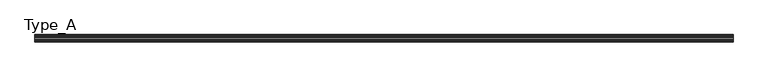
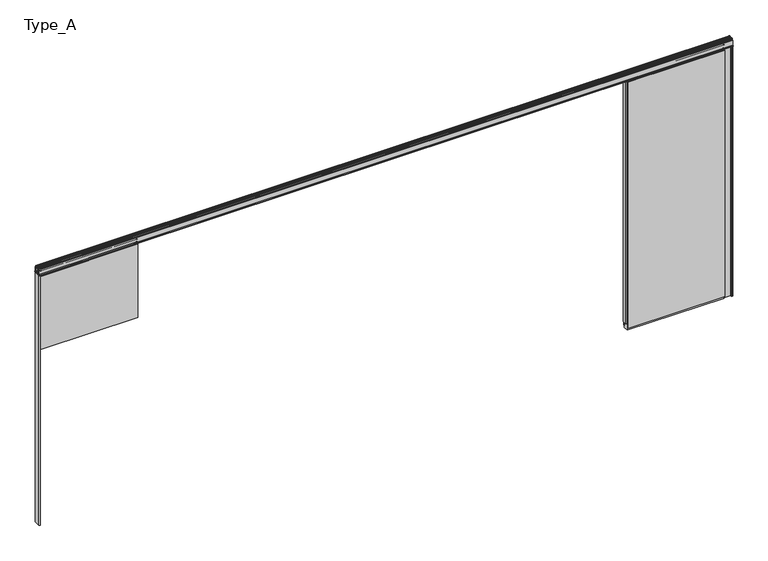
"""IFC4 building model written with IfcOpenShell, lengths in millimetres: proxy geometry, Planner Wall フラッシュパネル(Door) : Type_A."""

import ifcopenshell
import ifcopenshell.guid

model = None  # the IFC model being written
_history = None  # IfcOwnerHistory: only IFC2X3 demands one
_inside = {}  # id of a spatial element -> (the spatial element, [elements in it])
_under = {}  # id of a project, library or spatial element -> (it, [spatial elements below it])
_declared = {}  # id of a project -> (the project, [libraries it declares])
_typed = {}  # id of a type object -> (the type object, [elements of that type])
_made_of = {}  # id of a material, layer set ... -> (it, [elements and type objects made of it])


def new_model(schema):
    """Start an empty IFC model of exactly this schema.

    Asked for "IFC4X3", IfcOpenShell would pick the latest addendum, in which some entities
    have other attributes; the version numbers below select the first issue.
    IFC2X3 requires an IfcOwnerHistory on every rooted entity: one is made here for all.
    """
    global model, _history
    if schema == "IFC4X3":
        model = ifcopenshell.file(schema_version=(4, 3, 0, 0))
    else:
        model = ifcopenshell.file(schema=schema)
    _inside.clear()
    _under.clear()
    _declared.clear()
    _typed.clear()
    _made_of.clear()
    _history = None
    if model.schema == "IFC2X3":
        org = make("IfcOrganization", Name="unknown")
        user = make(
            "IfcPersonAndOrganization",
            ThePerson=make("IfcPerson", FamilyName="unknown"),
            TheOrganization=org,
        )
        app = make(
            "IfcApplication",
            ApplicationDeveloper=org,
            Version="unknown",
            ApplicationFullName="unknown",
            ApplicationIdentifier="unknown",
        )
        _history = make(
            "IfcOwnerHistory",
            OwningUser=user,
            OwningApplication=app,
            ChangeAction="ADDED",
            CreationDate=0,
        )
    return model


def make(cls, **values):
    """One entity of the class cls with the attributes given. An attribute that is None is left unset."""
    return model.create_entity(
        cls, **{name: value for name, value in values.items() if value is not None}
    )


def rooted(cls, **values):
    """An entity with a GlobalId (a new one), such as an element, a storey or a relation."""
    return make(cls, GlobalId=ifcopenshell.guid.new(), OwnerHistory=_history, **values)


def si_unit(unit_type, name, prefix=None):
    """IfcSIUnit, for example si_unit("LENGTHUNIT", "METRE", prefix="MILLI")."""
    return make("IfcSIUnit", UnitType=unit_type, Prefix=prefix, Name=name)


def assignment(units):
    """IfcUnitAssignment: the units of a project."""
    return None if units is None else make("IfcUnitAssignment", Units=units)


def point(xyz):
    """IfcCartesianPoint."""
    return None if xyz is None else make("IfcCartesianPoint", Coordinates=xyz)


def direction(xyz):
    """IfcDirection."""
    return None if xyz is None else make("IfcDirection", DirectionRatios=xyz)


def frame(location, z_axis=None, x_axis=None):
    """IfcAxis2Placement3D, a coordinate frame: its origin and axes. An axis left out is left unset."""
    return make(
        "IfcAxis2Placement3D",
        Location=point(location),
        Axis=direction(z_axis),
        RefDirection=direction(x_axis),
    )


def frame_2d(location, x_axis=None):
    """IfcAxis2Placement2D, a coordinate frame in the plane: its origin and x axis."""
    return make(
        "IfcAxis2Placement2D", Location=point(location), RefDirection=direction(x_axis)
    )


def origin():
    """The frame at (0, 0, 0) with its axes left unset."""
    return frame((0.0, 0.0, 0.0))


def origin_with_axes():
    """The frame at (0, 0, 0) with the z axis (0, 0, 1) and the x axis (1, 0, 0) written out."""
    return frame((0.0, 0.0, 0.0), z_axis=(0.0, 0.0, 1.0), x_axis=(1.0, 0.0, 0.0))


def place(relative_to, where):
    """IfcLocalPlacement: puts the frame where relative to a parent placement (None: the world)."""
    return make(
        "IfcLocalPlacement", PlacementRelTo=relative_to, RelativePlacement=where
    )


def context(
    kind, dimensions, precision=None, world=None, true_north=None, identifier=None
):
    """IfcGeometricRepresentationContext, for example the 3D "Model" context."""
    return make(
        "IfcGeometricRepresentationContext",
        ContextIdentifier=identifier,
        ContextType=kind,
        CoordinateSpaceDimension=dimensions,
        Precision=precision,
        WorldCoordinateSystem=world,
        TrueNorth=true_north,
    )


def project(units=None, contexts=None):
    """IfcProject with its units and contexts."""
    return rooted(
        "IfcProject",
        Name="project",
        RepresentationContexts=contexts,
        UnitsInContext=assignment(units),
    )


def spatial(cls, under=None, at=None, **own):
    """A site, building, storey or space (cls), placed at a placement, below another one or the project."""
    s = rooted(cls, ObjectPlacement=at, **own)
    if under is not None:
        _under.setdefault(under.id(), (under, []))[1].append(s)
    return s


def polyline(points):
    """IfcPolyline through the points."""
    return make("IfcPolyline", Points=[point(p) for p in points])


def circle_curve(where, radius):
    """IfcCircle in the frame where."""
    return make("IfcCircle", Position=where, Radius=radius)


def trimmed(basis, trim1, trim2, sense, master):
    """IfcTrimmedCurve: the piece of a basis curve between two trims."""
    return make(
        "IfcTrimmedCurve",
        BasisCurve=basis,
        Trim1=trim1,
        Trim2=trim2,
        SenseAgreement=sense,
        MasterRepresentation=master,
    )


def segment(curve, same_sense, transition):
    """IfcCompositeCurveSegment."""
    return make(
        "IfcCompositeCurveSegment",
        Transition=transition,
        SameSense=same_sense,
        ParentCurve=curve,
    )


def composite_curve(segments, self_intersect=None):
    """IfcCompositeCurve: segments joined end to end."""
    return make("IfcCompositeCurve", Segments=segments, SelfIntersect=self_intersect)


def outline(outer, holes=None, kind="AREA"):
    """IfcArbitraryClosedProfileDef: a profile drawn as a closed curve; with holes, ...WithVoids."""
    if holes is None:
        return make("IfcArbitraryClosedProfileDef", ProfileType=kind, OuterCurve=outer)
    return make(
        "IfcArbitraryProfileDefWithVoids",
        ProfileType=kind,
        OuterCurve=outer,
        InnerCurves=holes,
    )


def extrude(swept, where, along, depth):
    """IfcExtrudedAreaSolid: the profile swept, set in the frame where, extruded along a direction by depth."""
    return make(
        "IfcExtrudedAreaSolid",
        SweptArea=swept,
        Position=where,
        ExtrudedDirection=direction(along),
        Depth=depth,
    )


def shape(context_of_items, identifier, shape_type, items):
    """IfcShapeRepresentation: the items that make up one representation, for example the "Body"."""
    return make(
        "IfcShapeRepresentation",
        ContextOfItems=context_of_items,
        RepresentationIdentifier=identifier,
        RepresentationType=shape_type,
        Items=items,
    )


def source(mapping_origin, context_of_items, identifier, shape_type, items):
    """IfcRepresentationMap: a shape defined once, which mapped items show again and again."""
    return make(
        "IfcRepresentationMap",
        MappingOrigin=mapping_origin,
        MappedRepresentation=shape(context_of_items, identifier, shape_type, items),
    )


def transform(
    local_origin,
    x_axis=None,
    y_axis=None,
    z_axis=None,
    scale=None,
    scale2=None,
    scale3=None,
    uniform=True,
):
    """IfcCartesianTransformationOperator3D, or its non-uniform kind. x_axis, y_axis, z_axis: its Axis1, 2, 3."""
    if uniform:
        return make(
            "IfcCartesianTransformationOperator3D",
            Axis1=direction(x_axis),
            Axis2=direction(y_axis),
            LocalOrigin=point(local_origin),
            Scale=scale,
            Axis3=direction(z_axis),
        )
    return make(
        "IfcCartesianTransformationOperator3DnonUniform",
        Axis1=direction(x_axis),
        Axis2=direction(y_axis),
        LocalOrigin=point(local_origin),
        Scale=scale,
        Axis3=direction(z_axis),
        Scale2=scale2,
        Scale3=scale3,
    )


def mapped(mapping_source, mapping_target):
    """IfcMappedItem: shows the shape of a source again, moved by a transform."""
    return make(
        "IfcMappedItem", MappingSource=mapping_source, MappingTarget=mapping_target
    )


def made_of(thing, what):
    """Note that an element or type object is made of a material, layer set ...; save() writes the relation."""
    if what is not None:
        _made_of.setdefault(what.id(), (what, []))[1].append(thing)
    return thing


def element(
    cls,
    number,
    at=None,
    inside=None,
    cuts=None,
    type_object=None,
    material=None,
    context=None,
    identifier="Body",
    shape_type=None,
    held_by="IfcProductDefinitionShape",
    body=None,
    shapes=None,
    **own,
):
    """One element of the class cls, such as IfcWall. Its Tag is "e" and its number.

    at: its placement. inside: the storey or other place that contains it. cuts: it is an
    opening in that element (IfcRelVoidsElement). A single representation is given by context,
    identifier, shape_type and body (its items); several are given by shapes. held_by: the class
    of the entity that holds the representations. save() writes the other relations.
    """
    e = rooted(cls, Tag="e%d" % number, ObjectPlacement=at, **own)
    if body is not None:
        shapes = [shape(context, identifier, shape_type, body)]
    if shapes is not None:
        e.Representation = make(held_by, Representations=shapes)
    if inside is not None:
        _inside.setdefault(inside.id(), (inside, []))[1].append(e)
    if cuts is not None:
        rooted(
            "IfcRelVoidsElement", RelatingBuildingElement=cuts, RelatedOpeningElement=e
        )
    if type_object is not None:
        _typed.setdefault(type_object.id(), (type_object, []))[1].append(e)
    return made_of(e, material)


def aggregate(whole, parts):
    """IfcRelAggregates: a whole, such as a stair, and the parts it consists of."""
    return rooted("IfcRelAggregates", RelatingObject=whole, RelatedObjects=parts)


def save(model, path):
    """Write the relations noted so far, then the file.

    IfcRelAggregates (storeys below a building ...), IfcRelContainedInSpatialStructure (elements
    in a storey), IfcRelDefinesByType, IfcRelAssociatesMaterial and IfcRelDeclares: one each for
    every whole, place, type object, material and project.
    """
    for whole, parts in _under.values():
        aggregate(whole, parts)
    for where, things in _inside.values():
        rooted(
            "IfcRelContainedInSpatialStructure",
            RelatedElements=things,
            RelatingStructure=where,
        )
    for kind, things in _typed.values():
        rooted("IfcRelDefinesByType", RelatedObjects=things, RelatingType=kind)
    for what, things in _made_of.values():
        rooted("IfcRelAssociatesMaterial", RelatedObjects=things, RelatingMaterial=what)
    for by, libraries in _declared.values():
        rooted("IfcRelDeclares", RelatingContext=by, RelatedDefinitions=libraries)
    model.write(path)


def type_a_b381bf6a(model_context):
    return source(origin(), model_context, "Body", "SweptSolid", [
        extrude(outline(composite_curve([segment(polyline([(23.5, 3050.1000003), (26.5, 3047.1000003), (26.5, 3032.6)]), True, "CONTINUOUS"), segment(trimmed(circle_curve(frame_2d((25.0, 3032.6)), 1.5), [point((26.5, 3032.6))], [point((25.0, 3031.1))], False, "CARTESIAN"), True, "CONTINUOUS"), segment(polyline([(25.0, 3031.1), (9.0, 3031.1), (9.0, 3019.1000003), (23.5, 3019.1000003), (26.5, 3016.1000003), (26.5, 3001.5)]), True, "CONTINUOUS"), segment(trimmed(circle_curve(frame_2d((25.0, 3001.5)), 1.5), [point((26.5, 3001.5))], [point((25.0, 3000.0))], False, "CARTESIAN"), True, "CONTINUOUS"), segment(polyline([(25.0, 3000.0), (7.5, 3000.0), (7.5, 2994.5), (25.0, 2994.5), (25.0, 2935.0), (-25.0, 2935.0), (-25.0, 2994.5), (-7.5, 2994.5), (-7.5, 3000.0), (-25.0, 3000.0)]), True, "CONTINUOUS"), segment(trimmed(circle_curve(frame_2d((-25.0, 3001.5)), 1.5), [point((-25.0, 3000.0))], [point((-26.5, 3001.5))], False, "CARTESIAN"), True, "CONTINUOUS"), segment(polyline([(-26.5, 3001.5), (-26.5, 3016.1000003), (-23.5, 3019.1000003), (-9.0, 3019.1000003), (-9.0, 3031.1), (-25.0, 3031.1)]), True, "CONTINUOUS"), segment(trimmed(circle_curve(frame_2d((-25.0, 3032.6)), 1.5), [point((-25.0, 3031.1))], [point((-26.5, 3032.6))], False, "CARTESIAN"), True, "CONTINUOUS"), segment(polyline([(-26.5, 3032.6), (-26.5, 3047.1000003), (-23.5, 3050.1000003), (23.5, 3050.1000003)]), True, "CONTINUOUS")], self_intersect=False)), frame((21.5, 0.0, 0.0), z_axis=(1.0, 0.0, 0.0), x_axis=(0.0, 1.0, 0.0)), (0.0, 0.0, 1.0), 1098.4285714),
        extrude(outline(polyline([(1119.9285714, 24.9), (21.5, 24.9), (21.5, 35.0), (1119.9285714, 35.0), (1119.9285714, 24.9)])), frame((0.0, 0.0, 2100.0), z_axis=(0.0, 0.0, 1.0), x_axis=(1.0, 0.0, 0.0)), (0.0, 0.0, 1.0), 875.0),
        extrude(outline(polyline([(1119.9285714, -35.0), (21.5, -35.0), (21.5, -24.9), (1119.9285714, -24.9), (1119.9285714, -35.0)])), frame((0.0, 0.0, 2100.0), z_axis=(0.0, 0.0, 1.0), x_axis=(1.0, 0.0, 0.0)), (0.0, 0.0, 1.0), 875.0),
        extrude(outline(polyline([(8.0, -25.0), (8.0, 25.0), (21.5, 25.0), (21.5, -25.0), (8.0, -25.0)])), frame((0.0, 0.0, 53.0), z_axis=(0.0, 0.0, 1.0), x_axis=(1.0, 0.0, 0.0)), (0.0, 0.0, 1.0), 2869.0),
        extrude(outline(polyline([(6660.0714286, -25.0), (6660.0714286, 25.0), (7753.0, 25.0), (7753.0, -25.0), (6660.0714286, -25.0)])), origin_with_axes(), (0.0, 0.0, 1.0), 65.0),
        extrude(outline(polyline([(7753.0, -19.5), (7753.0, 19.5), (7835.5, 19.5), (7835.5, 25.0), (7842.0, 25.0), (7842.0, -25.0), (7835.5, -25.0), (7835.5, -19.5), (7753.0, -19.5)])), origin_with_axes(), (0.0, 0.0, 1.0), 2994.0),
        extrude(outline(composite_curve([segment(polyline([(23.5, 3050.1000003), (26.5, 3047.1000003), (26.5, 3032.6)]), True, "CONTINUOUS"), segment(trimmed(circle_curve(frame_2d((25.0, 3032.6)), 1.5), [point((26.5, 3032.6))], [point((25.0, 3031.1))], False, "CARTESIAN"), True, "CONTINUOUS"), segment(polyline([(25.0, 3031.1), (9.0, 3031.1), (9.0, 3019.1000003), (23.5, 3019.1000003), (26.5, 3016.1000003), (26.5, 3001.5)]), True, "CONTINUOUS"), segment(trimmed(circle_curve(frame_2d((25.0, 3001.5)), 1.5), [point((26.5, 3001.5))], [point((25.0, 3000.0))], False, "CARTESIAN"), True, "CONTINUOUS"), segment(polyline([(25.0, 3000.0), (7.5, 3000.0), (7.5, 2994.5), (25.0, 2994.5), (25.0, 2935.0), (-25.0, 2935.0), (-25.0, 2994.5), (-7.5, 2994.5), (-7.5, 3000.0), (-25.0, 3000.0)]), True, "CONTINUOUS"), segment(trimmed(circle_curve(frame_2d((-25.0, 3001.5)), 1.5), [point((-25.0, 3000.0))], [point((-26.5, 3001.5))], False, "CARTESIAN"), True, "CONTINUOUS"), segment(polyline([(-26.5, 3001.5), (-26.5, 3016.1000003), (-23.5, 3019.1000003), (-9.0, 3019.1000003), (-9.0, 3031.1), (-25.0, 3031.1)]), True, "CONTINUOUS"), segment(trimmed(circle_curve(frame_2d((-25.0, 3032.6)), 1.5), [point((-25.0, 3031.1))], [point((-26.5, 3032.6))], False, "CARTESIAN"), True, "CONTINUOUS"), segment(polyline([(-26.5, 3032.6), (-26.5, 3047.1000003), (-23.5, 3050.1000003), (23.5, 3050.1000003)]), True, "CONTINUOUS")], self_intersect=False)), frame((6660.0714286, 0.0, 0.0), z_axis=(1.0, 0.0, 0.0), x_axis=(0.0, 1.0, 0.0)), (0.0, 0.0, 1.0), 1098.4285714),
        extrude(outline(polyline([(7758.5, 24.9), (6660.0714286, 24.9), (6660.0714286, 35.0), (7758.5, 35.0), (7758.5, 24.9)])), frame((0.0, 0.0, 25.0), z_axis=(0.0, 0.0, 1.0), x_axis=(1.0, 0.0, 0.0)), (0.0, 0.0, 1.0), 2950.0),
        extrude(outline(polyline([(7758.5, -35.0), (6660.0714286, -35.0), (6660.0714286, -24.9), (7758.5, -24.9), (7758.5, -35.0)])), frame((0.0, 0.0, 25.0), z_axis=(0.0, 0.0, 1.0), x_axis=(1.0, 0.0, 0.0)), (0.0, 0.0, 1.0), 2950.0),
        extrude(outline(polyline([(6646.5714286, -25.0), (6646.5714286, 25.0), (6660.0714286, 25.0), (6660.0714286, -25.0), (6646.5714286, -25.0)])), frame((0.0, 0.0, 78.0), z_axis=(0.0, 0.0, 1.0), x_axis=(1.0, 0.0, 0.0)), (0.0, 0.0, 1.0), 2897.0),
        extrude(outline(polyline([(0.0, -35.0), (0.0, 35.0), (13.5, 35.0), (13.5, 25.0), (8.0, 25.0), (8.0, -25.0), (13.5, -25.0), (13.5, -35.0), (0.0, -35.0)])), origin_with_axes(), (0.0, 0.0, 1.0), 2994.0),
        extrude(outline(composite_curve([segment(trimmed(circle_curve(frame_2d((-26.5, 3056.0)), 5.0), [point((-31.5, 3056.0))], [point((-26.1165175, 3060.9852724))], False, "CARTESIAN"), True, "CONTINUOUS"), segment(polyline([(-26.1165175, 3060.9852724), (-24.5, 3060.9852724), (-24.5, 3075.0)]), True, "CONTINUOUS"), segment(trimmed(circle_curve(frame_2d((-21.5, 3075.0)), 3.0), [point((-24.5, 3075.0))], [point((-21.5, 3078.0))], False, "CARTESIAN"), True, "CONTINUOUS"), segment(polyline([(-21.5, 3078.0), (-14.0, 3078.0)]), True, "CONTINUOUS"), segment(trimmed(circle_curve(frame_2d((-14.0, 3076.5)), 1.5), [point((-14.0, 3078.0))], [point((-12.5, 3076.5))], False, "CARTESIAN"), True, "CONTINUOUS"), segment(polyline([(-12.5, 3076.5), (-12.5, 3074.5)]), True, "CONTINUOUS"), segment(trimmed(circle_curve(frame_2d((-13.0, 3074.5)), 0.5), [point((-12.5, 3074.5))], [point((-13.0, 3074.0))], False, "CARTESIAN"), True, "CONTINUOUS"), segment(polyline([(-13.0, 3074.0), (-19.0, 3074.0)]), True, "CONTINUOUS"), segment(trimmed(circle_curve(frame_2d((-19.0, 3072.5)), 1.5), [point((-19.0, 3074.0))], [point((-20.5, 3072.5))], True, "CARTESIAN"), True, "CONTINUOUS"), segment(polyline([(-20.5, 3072.5), (-20.5, 3062.5)]), True, "CONTINUOUS"), segment(trimmed(circle_curve(frame_2d((-19.0, 3062.5)), 1.5), [point((-20.5, 3062.5))], [point((-19.0, 3061.0))], True, "CARTESIAN"), True, "CONTINUOUS"), segment(polyline([(-19.0, 3061.0), (19.0, 3061.0)]), True, "CONTINUOUS"), segment(trimmed(circle_curve(frame_2d((19.0, 3062.5)), 1.5), [point((19.0, 3061.0))], [point((20.5, 3062.5))], True, "CARTESIAN"), True, "CONTINUOUS"), segment(polyline([(20.5, 3062.5), (20.5, 3072.5)]), True, "CONTINUOUS"), segment(trimmed(circle_curve(frame_2d((19.0, 3072.5)), 1.5), [point((20.5, 3072.5))], [point((19.0, 3074.0))], True, "CARTESIAN"), True, "CONTINUOUS"), segment(polyline([(19.0, 3074.0), (13.0, 3074.0)]), True, "CONTINUOUS"), segment(trimmed(circle_curve(frame_2d((13.0, 3074.5)), 0.5), [point((13.0, 3074.0))], [point((12.5, 3074.5))], False, "CARTESIAN"), True, "CONTINUOUS"), segment(polyline([(12.5, 3074.5), (12.5, 3076.5)]), True, "CONTINUOUS"), segment(trimmed(circle_curve(frame_2d((14.0, 3076.5)), 1.5), [point((12.5, 3076.5))], [point((14.0, 3078.0))], False, "CARTESIAN"), True, "CONTINUOUS"), segment(polyline([(14.0, 3078.0), (21.5, 3078.0)]), True, "CONTINUOUS"), segment(trimmed(circle_curve(frame_2d((21.5, 3075.0)), 3.0), [point((21.5, 3078.0))], [point((24.5, 3075.0))], False, "CARTESIAN"), True, "CONTINUOUS"), segment(polyline([(24.5, 3075.0), (24.5, 3060.9852724), (26.1165175, 3060.9852724)]), True, "CONTINUOUS"), segment(trimmed(circle_curve(frame_2d((26.5, 3056.0)), 5.0), [point((26.1165175, 3060.9852724))], [point((31.5, 3056.0))], False, "CARTESIAN"), True, "CONTINUOUS"), segment(polyline([(31.5, 3056.0), (31.5, 3000.0), (42.5, 3000.0), (42.5, 2994.0), (11.0, 2994.0), (11.0, 3000.0), (26.9, 3000.0), (26.9, 3007.0786797), (27.9, 3009.3213203), (27.9, 3052.0)]), True, "CONTINUOUS"), segment(trimmed(circle_curve(frame_2d((22.9, 3052.0)), 5.0), [point((27.9, 3052.0))], [point((22.9, 3057.0))], True, "CARTESIAN"), True, "CONTINUOUS"), segment(polyline([(22.9, 3057.0), (-22.9, 3057.0)]), True, "CONTINUOUS"), segment(trimmed(circle_curve(frame_2d((-22.9, 3052.0)), 5.0), [point((-22.9, 3057.0))], [point((-27.9, 3052.0))], True, "CARTESIAN"), True, "CONTINUOUS"), segment(polyline([(-27.9, 3052.0), (-27.9, 3009.3213203), (-26.9, 3007.0786797), (-26.9, 3000.0), (-11.0, 3000.0), (-11.0, 2994.0), (-42.5, 2994.0), (-42.5, 3000.0), (-31.5, 3000.0), (-31.5, 3056.0)]), True, "CONTINUOUS")], self_intersect=False)), frame((0.0, 0.0, 0.0), z_axis=(1.0, 0.0, 0.0), x_axis=(0.0, 1.0, 0.0)), (0.0, 0.0, 1.0), 7850.0),
        extrude(outline(polyline([(7850.0, -35.0), (7836.5, -35.0), (7836.5, -25.0), (7842.0, -25.0), (7842.0, 25.0), (7836.5, 25.0), (7836.5, 35.0), (7850.0, 35.0), (7850.0, -35.0)])), origin_with_axes(), (0.0, 0.0, 1.0), 2994.0),
        extrude(outline(polyline([(0.0, -35.0), (0.0, 35.0), (13.5, 35.0), (13.5, 25.0), (8.0, 25.0), (8.0, -25.0), (13.5, -25.0), (13.5, -35.0), (0.0, -35.0)])), origin_with_axes(), (0.0, 0.0, 1.0), 2994.0),
    ])


if __name__ == "__main__":
    model = new_model("IFC4")
    model_context = context("Model", 3, world=origin())
    ifc_project = project(units=[si_unit("LENGTHUNIT", "METRE", prefix="MILLI")], contexts=[model_context])
    site = spatial("IfcSite", under=ifc_project)
    building = spatial("IfcBuilding", under=site)
    placement = place(None, origin())
    type_a_shape = type_a_b381bf6a(model_context)
    element("IfcBuildingElementProxy", 1, Name="Planner Wall フラッシュパネル(Door) : Type_A", ObjectType="Planner Wall フラッシュパネル(Door) : Type_A", at=placement, inside=building, context=model_context, shape_type="MappedRepresentation", body=[
        mapped(type_a_shape, transform((0.0, 0.0, 0.0), x_axis=(1.0, 0.0, 0.0), y_axis=(0.0, 1.0, 0.0), z_axis=(0.0, 0.0, 1.0))),
    ])
    save(model, "model.ifc")
